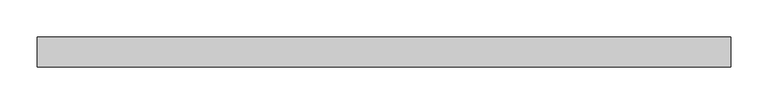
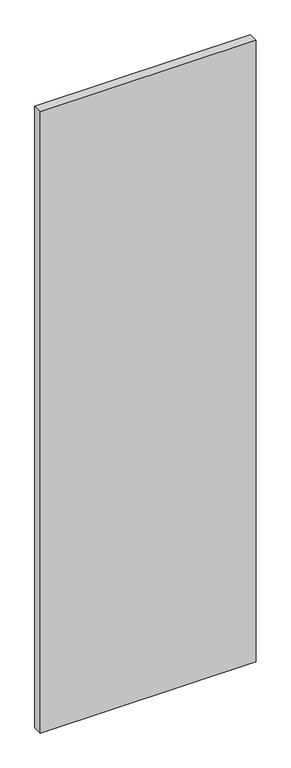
"""IFC4 building model written with IfcOpenShell, lengths in millimetres: plate geometry, Vitré."""

from ifc_helpers import new_model, si_unit, origin, origin_with_axes, place, context, project, spatial, polyline, outline, extrude, source, transform, mapped, element, save


def plate_9ee55541(model_context):
    return source(origin(), model_context, "Body", "SweptSolid", [
        extrude(outline(polyline([(-462.5000002, -20.0), (-462.5000002, 20.0), (462.5000002, 20.0), (462.5000002, -20.0), (-462.5000002, -20.0)])), origin_with_axes(), (0.0, 0.0, 1.0), 2814.4970552),
    ])


if __name__ == "__main__":
    model = new_model("IFC4")
    model_context = context("Model", 3, world=origin())
    ifc_project = project(units=[si_unit("LENGTHUNIT", "METRE", prefix="MILLI")], contexts=[model_context])
    site = spatial("IfcSite", under=ifc_project)
    building = spatial("IfcBuilding", under=site)
    placement = place(None, origin())
    plate_shape = plate_9ee55541(model_context)
    element("IfcPlate", 1, ObjectType="Vitré", at=placement, inside=building, context=model_context, shape_type="MappedRepresentation", body=[
        mapped(plate_shape, transform((0.0, 0.0, 0.0), x_axis=(1.0, 0.0, 0.0), y_axis=(0.0, 1.0, 0.0), z_axis=(0.0, 0.0, 1.0))),
    ])
    save(model, "model.ifc")
